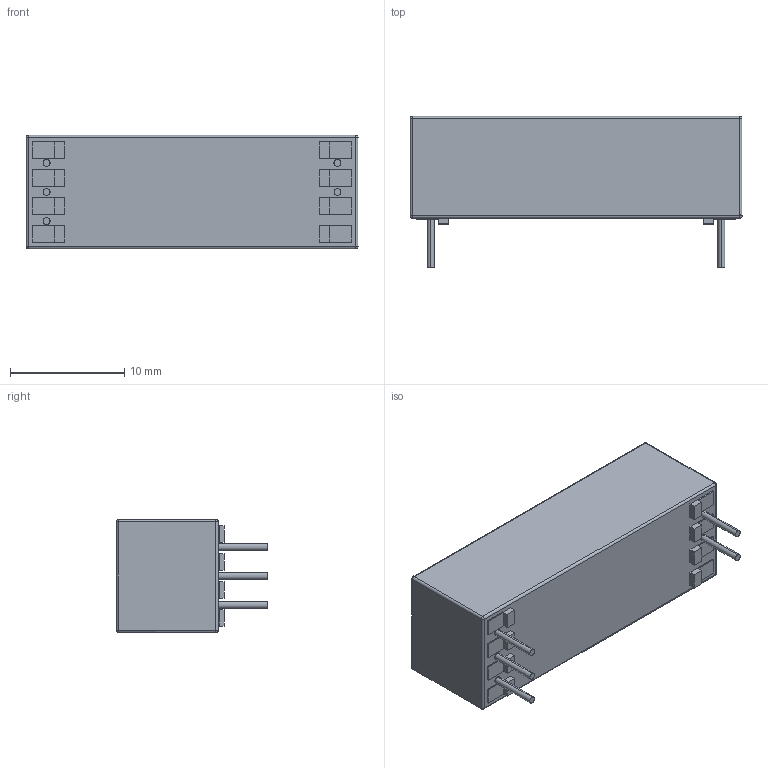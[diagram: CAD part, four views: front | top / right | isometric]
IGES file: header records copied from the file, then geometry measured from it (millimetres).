
Start section: SolidWorks IGES file using analytic representation for surfaces
Global section: file name: T:\Relays in Solidworks\Batch 3\89-1-C.IGS; native system: SolidWorks 2009; preprocessor: SolidWorks 2009; author: alex.leming; date: 100629.145337; units: millimetre
Bounding box: 29 x 13.2 x 9.9 mm (x, y, z)
Surface area: 1311.8 mm2 (no closed solid volume)
Topology: 0 solids, 0 shells, 767 faces, 7597 edges, 7591 vertices
Faces by surface type: bspline 731, revolution 36
